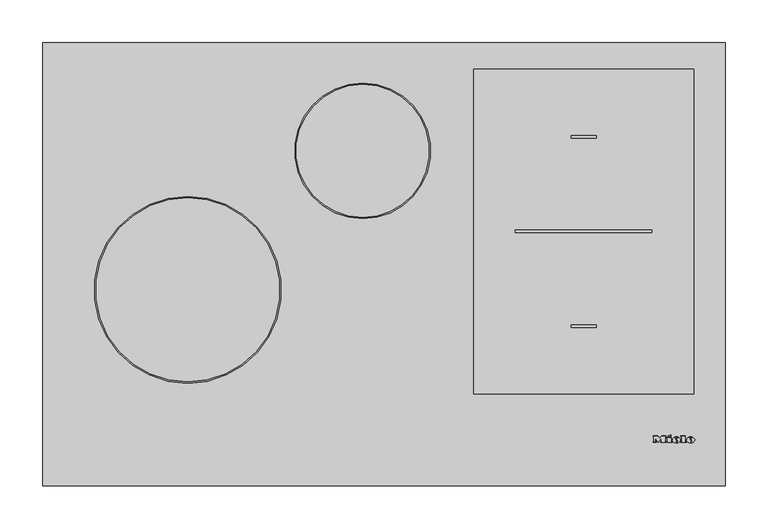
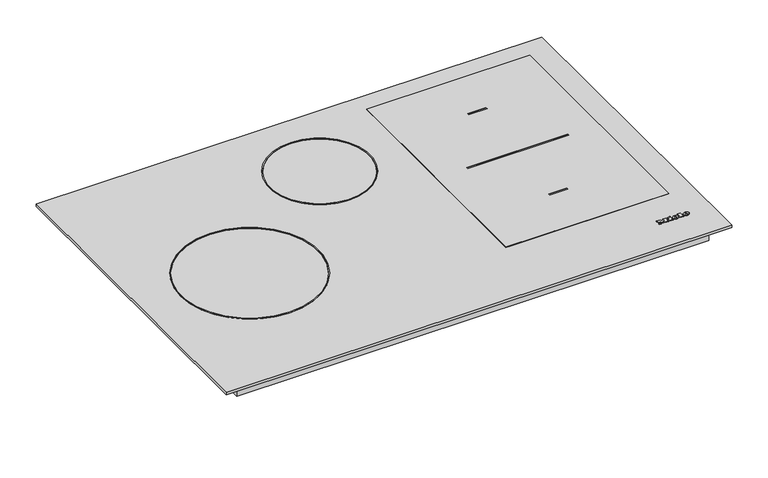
"""IFC4 building model written with IfcOpenShell, lengths in millimetres: proxy geometry, 11554200_AUS_KM7679FL : 26767970_AUS_11554200_KM7679FL."""

from ifc_helpers import new_model, si_unit, point, frame, frame_2d, origin, origin_with_axes, place, context, project, spatial, polyline, circle_curve, ellipse_curve, trimmed, segment, composite_curve, outline, extrude, source, transform, mapped, element, save
from ifc_brep_helpers import plane_surface, cylinder_surface, revolved_surface, extruded_surface, advanced_brep


def specialty_equipment_5556e589(model_context):
    return source(origin(), model_context, "Body", "SolidModel", [
        advanced_brep(
        [(358.648, 52.8948833, 4.9922537), (358.648, 53.7028828, 4.9931551), (364.0, 53.7028828, 4.9931551), (354.688, 53.7028828, 4.9931551), (356.888, 50.9988845, 4.9901386), (363.864, 52.8948833, 4.9922537), (361.448, 52.8948833, 4.9922537), (359.544, 51.9988838, 4.9912542), (358.648, 54.7268821, 4.9942974), (358.648, 55.5988816, 4.9952701), (360.016, 55.5988816, 4.9952701), (360.016, 54.7268821, 4.9942974), (358.648, 52.8959988, 3.9922543), (359.544, 51.9999994, 3.9912548), (361.448, 52.8959988, 3.9922543), (363.864, 52.8959988, 3.9922543), (356.888, 51.0, 3.9901393), (354.688, 53.7039983, 3.9931557), (364.0, 53.7039983, 3.9931557), (358.648, 53.7039983, 3.9931557), (358.648, 54.7279977, 3.994298), (360.016, 54.7279977, 3.994298), (360.016, 55.5999971, 3.9952707), (358.648, 55.5999971, 3.9952707)],
        [
            (0, 1),
            (1, 2),
            (2, 3, ellipse_curve(frame((359.344, 53.7028828, 4.9931551), z_axis=(0.0, -0.0011155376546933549, 0.9999993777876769), x_axis=(-1.0, 0.0, 0.0)), 4.656, 3.848)),
            (3, 4, circle_curve(frame((357.7840436, 53.9748826, 4.9934585), z_axis=(0.0, -0.0011155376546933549, 0.9999993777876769), x_axis=(0.0, -0.9999993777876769, -0.0011155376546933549)), 3.1079688)),
            (4, 5, circle_curve(frame((359.2507936, 56.0868813, 4.9958145), z_axis=(0.0, -0.0011155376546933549, 0.9999993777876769), x_axis=(0.0, -0.9999993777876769, -0.0011155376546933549)), 5.6098607)),
            (5, 6),
            (6, 7, circle_curve(frame((359.9350588, 53.6388828, 4.9930837), z_axis=(0.0, 0.0011155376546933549, -0.9999993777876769), x_axis=(0.0, -0.9999993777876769, -0.0011155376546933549)), 1.6859795)),
            (7, 0, circle_curve(frame((359.544, 52.8948833, 4.9922537), z_axis=(0.0, 0.0011155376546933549, -0.9999993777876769), x_axis=(0.0, -0.9999993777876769, -0.0011155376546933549)), 0.896)),
            (8, 9),
            (9, 10, circle_curve(frame((359.332, 55.5988816, 4.9952701), z_axis=(0.0, 0.0011155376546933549, -0.9999993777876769), x_axis=(0.0, -0.9999993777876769, -0.0011155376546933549)), 0.684)),
            (10, 11),
            (11, 8),
            (12, 13, circle_curve(frame((359.544, 52.8959988, 3.9922543), z_axis=(0.0, -0.0011155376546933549, 0.9999993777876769), x_axis=(0.0, -0.9999993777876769, -0.0011155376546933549)), 0.896)),
            (13, 14, circle_curve(frame((359.9350588, 53.6399984, 3.9930843), z_axis=(0.0, -0.0011155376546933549, 0.9999993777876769), x_axis=(0.0, -0.9999993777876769, -0.0011155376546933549)), 1.6859795)),
            (14, 15),
            (15, 16, circle_curve(frame((359.2507936, 56.0879968, 3.9958151), z_axis=(0.0, 0.0011155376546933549, -0.9999993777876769), x_axis=(0.0, -0.9999993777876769, -0.0011155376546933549)), 5.6098607)),
            (16, 17, circle_curve(frame((357.7840436, 53.9759981, 3.9934591), z_axis=(0.0, 0.0011155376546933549, -0.9999993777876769), x_axis=(0.0, -0.9999993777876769, -0.0011155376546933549)), 3.1079688)),
            (17, 18, ellipse_curve(frame((359.344, 53.7039983, 3.9931557), z_axis=(0.0, 0.0011155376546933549, -0.9999993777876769), x_axis=(-1.0, 0.0, 0.0)), 4.656, 3.848)),
            (18, 19),
            (19, 12),
            (20, 21),
            (21, 22),
            (22, 23, circle_curve(frame((359.332, 55.5999971, 3.9952707), z_axis=(0.0, -0.0011155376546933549, 0.9999993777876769), x_axis=(0.0, -0.9999993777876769, -0.0011155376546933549)), 0.684)),
            (23, 20),
            (0, 12),
            (19, 1),
            (18, 2),
            (5, 15),
            (14, 6),
            (17, 3),
            (13, 7),
            (16, 4),
            (8, 20),
            (23, 9),
            (22, 10),
            (21, 11),
        ],
        [
            plane_surface(frame((358.648, 53.7028828, 4.9931551), z_axis=(0.0, -0.0011155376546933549, 0.9999993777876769), x_axis=(0.0, 0.9999993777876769, 0.0011155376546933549))),
            plane_surface(frame((358.648, 53.7039983, 3.9931557), z_axis=(0.0, 0.0011155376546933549, -0.9999993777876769), x_axis=(0.0, -0.9999993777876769, -0.0011155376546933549))),
            plane_surface(frame((358.648, 52.8948833, 4.9922537), z_axis=(1.0000000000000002, 0.0, 0.0), x_axis=(0.0, 0.001115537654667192, -0.999999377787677))),
            plane_surface(frame((358.648, 53.7028828, 4.9931551), z_axis=(0.0, -0.999999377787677, -0.001115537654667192), x_axis=(0.0, 0.001115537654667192, -0.999999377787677))),
            plane_surface(frame((363.864, 52.8948833, 4.9922537), z_axis=(0.0, 0.999999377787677, 0.001115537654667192), x_axis=(0.0, 0.001115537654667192, -0.999999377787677))),
            extruded_surface(trimmed(ellipse_curve(frame((359.344, 53.7051139, 2.9931563), z_axis=(0.0, -0.0011155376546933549, 0.9999993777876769), x_axis=(-1.0, 0.0, 0.0)), 4.656, 3.848), [point((364.0, 53.7051139, 2.9931563))], [point((354.688, 53.7051139, 2.9931563))], True, "CARTESIAN"), (0.0, -0.001115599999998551, 0.9999994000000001), 1.00000002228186),
            revolved_surface(polyline([(359.9350588, 51.954019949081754, 3.991203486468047), (359.9350588, 51.95290441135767, 4.99120292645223)]), (359.9350588, 53.6399984, 3.9930843), (0.0, 0.0011155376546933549, -0.9999993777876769)),
            revolved_surface(polyline([(359.544, 51.99999935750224, 3.9912547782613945), (359.544, 51.99888381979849, 4.991254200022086)]), (359.544, 52.8959988, 3.9922543), (0.0, 0.0011155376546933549, -0.9999993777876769)),
            cylinder_surface(frame((357.7840436, 53.9759981, 3.9934591), z_axis=(0.0, -0.0011155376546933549, 0.9999993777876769), x_axis=(0.0, -0.9999993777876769, -0.0011155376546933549)), 3.1079688),
            cylinder_surface(frame((359.2507936, 56.0879968, 3.9958151), z_axis=(0.0, -0.0011155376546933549, 0.9999993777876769), x_axis=(0.0, -0.9999993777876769, -0.0011155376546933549)), 5.6098607),
            plane_surface(frame((358.648, 54.7268821, 4.9942974), z_axis=(1.0000000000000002, 0.0, 0.0), x_axis=(0.0, 0.001115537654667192, -0.999999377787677))),
            revolved_surface(polyline([(359.332, 54.915997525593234, 3.9945076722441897), (359.332, 54.91488198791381, 4.994507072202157)]), (359.332, 55.5999971, 3.9952707), (0.0, 0.0011155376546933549, -0.9999993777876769)),
            plane_surface(frame((360.016, 55.5988816, 4.9952701), z_axis=(-1.0000000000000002, 0.0, 0.0), x_axis=(0.0, 0.001115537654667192, -0.999999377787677))),
            plane_surface(frame((360.016, 54.7268821, 4.9942974), z_axis=(0.0, 0.999999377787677, 0.001115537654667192), x_axis=(0.0, 0.001115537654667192, -0.999999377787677))),
        ],
        [
            (0, [[1, 2, 3, 4, 5, 6, 7, 8], [9, 10, 11, 12]]),
            (1, [[13, 14, 15, 16, 17, 18, 19, 20], [21, 22, 23, 24]]),
            (2, [[-1, 25, -20, 26]]),
            (3, [[-2, -26, -19, 27]]),
            (4, [[-6, 28, -15, 29]]),
            (5, [[-3, -27, -18, 30]]),
            (6, [[-7, -29, -14, 31]]),
            (7, [[-8, -31, -13, -25]]),
            (8, [[-4, -30, -17, 32]]),
            (9, [[-5, -32, -16, -28]]),
            (10, [[-9, 33, -24, 34]]),
            (11, [[-10, -34, -23, 35]]),
            (12, [[-11, -35, -22, 36]]),
            (13, [[-12, -36, -21, -33]]),
        ],
    ),
        advanced_brep(
        [(341.952, 52.8948833, 4.9922537), (341.952, 53.7028828, 4.9931551), (347.304, 53.7028828, 4.9931551), (337.992, 53.7028828, 4.9931551), (340.192, 50.9988845, 4.9901386), (347.168, 52.8948833, 4.9922537), (344.752, 52.8948833, 4.9922537), (342.848, 51.9988838, 4.9912542), (341.952, 54.7268821, 4.9942974), (341.952, 55.5988816, 4.9952701), (343.32, 55.5988816, 4.9952701), (343.32, 54.7268821, 4.9942974), (341.952, 52.8959988, 3.9922543), (342.848, 51.9999994, 3.9912548), (344.752, 52.8959988, 3.9922543), (347.168, 52.8959988, 3.9922543), (340.192, 51.0, 3.9901393), (337.992, 53.7039983, 3.9931557), (347.304, 53.7039983, 3.9931557), (341.952, 53.7039983, 3.9931557), (341.952, 54.7279977, 3.994298), (343.32, 54.7279977, 3.994298), (343.32, 55.5999971, 3.9952707), (341.952, 55.5999971, 3.9952707)],
        [
            (0, 1),
            (1, 2),
            (2, 3, ellipse_curve(frame((342.648, 53.7028828, 4.9931551), z_axis=(0.0, -0.0011155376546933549, 0.9999993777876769), x_axis=(-1.0, 0.0, 0.0)), 4.656, 3.848)),
            (3, 4, circle_curve(frame((341.0880436, 53.9748826, 4.9934585), z_axis=(0.0, -0.0011155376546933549, 0.9999993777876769), x_axis=(0.0, -0.9999993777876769, -0.0011155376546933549)), 3.1079688)),
            (4, 5, circle_curve(frame((342.5547936, 56.0868813, 4.9958145), z_axis=(0.0, -0.0011155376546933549, 0.9999993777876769), x_axis=(0.0, -0.9999993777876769, -0.0011155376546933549)), 5.6098607)),
            (5, 6),
            (6, 7, circle_curve(frame((343.2390588, 53.6388828, 4.9930837), z_axis=(0.0, 0.0011155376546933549, -0.9999993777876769), x_axis=(0.0, -0.9999993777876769, -0.0011155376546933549)), 1.6859795)),
            (7, 0, circle_curve(frame((342.848, 52.8948833, 4.9922537), z_axis=(0.0, 0.0011155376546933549, -0.9999993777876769), x_axis=(0.0, -0.9999993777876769, -0.0011155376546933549)), 0.896)),
            (8, 9),
            (9, 10, circle_curve(frame((342.636, 55.5988816, 4.9952701), z_axis=(0.0, 0.0011155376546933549, -0.9999993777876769), x_axis=(0.0, -0.9999993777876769, -0.0011155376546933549)), 0.684)),
            (10, 11),
            (11, 8),
            (12, 13, circle_curve(frame((342.848, 52.8959988, 3.9922543), z_axis=(0.0, -0.0011155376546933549, 0.9999993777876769), x_axis=(0.0, -0.9999993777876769, -0.0011155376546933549)), 0.896)),
            (13, 14, circle_curve(frame((343.2390588, 53.6399984, 3.9930843), z_axis=(0.0, -0.0011155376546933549, 0.9999993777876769), x_axis=(0.0, -0.9999993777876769, -0.0011155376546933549)), 1.6859795)),
            (14, 15),
            (15, 16, circle_curve(frame((342.5547936, 56.0879968, 3.9958151), z_axis=(0.0, 0.0011155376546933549, -0.9999993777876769), x_axis=(0.0, -0.9999993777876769, -0.0011155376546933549)), 5.6098607)),
            (16, 17, circle_curve(frame((341.0880436, 53.9759981, 3.9934591), z_axis=(0.0, 0.0011155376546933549, -0.9999993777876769), x_axis=(0.0, -0.9999993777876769, -0.0011155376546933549)), 3.1079688)),
            (17, 18, ellipse_curve(frame((342.648, 53.7039983, 3.9931557), z_axis=(0.0, 0.0011155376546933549, -0.9999993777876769), x_axis=(-1.0, 0.0, 0.0)), 4.656, 3.848)),
            (18, 19),
            (19, 12),
            (20, 21),
            (21, 22),
            (22, 23, circle_curve(frame((342.636, 55.5999971, 3.9952707), z_axis=(0.0, -0.0011155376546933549, 0.9999993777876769), x_axis=(0.0, -0.9999993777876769, -0.0011155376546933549)), 0.684)),
            (23, 20),
            (0, 12),
            (19, 1),
            (18, 2),
            (5, 15),
            (14, 6),
            (17, 3),
            (13, 7),
            (16, 4),
            (8, 20),
            (23, 9),
            (22, 10),
            (21, 11),
        ],
        [
            plane_surface(frame((341.952, 53.7028828, 4.9931551), z_axis=(0.0, -0.0011155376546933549, 0.9999993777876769), x_axis=(0.0, 0.9999993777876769, 0.0011155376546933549))),
            plane_surface(frame((341.952, 53.7039983, 3.9931557), z_axis=(0.0, 0.0011155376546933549, -0.9999993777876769), x_axis=(0.0, -0.9999993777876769, -0.0011155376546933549))),
            plane_surface(frame((341.952, 52.8948833, 4.9922537), z_axis=(1.0000000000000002, 0.0, 0.0), x_axis=(0.0, 0.001115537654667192, -0.999999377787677))),
            plane_surface(frame((341.952, 53.7028828, 4.9931551), z_axis=(0.0, -0.999999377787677, -0.001115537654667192), x_axis=(0.0, 0.001115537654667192, -0.999999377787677))),
            plane_surface(frame((347.168, 52.8948833, 4.9922537), z_axis=(0.0, 0.999999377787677, 0.001115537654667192), x_axis=(0.0, 0.001115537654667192, -0.999999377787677))),
            extruded_surface(trimmed(ellipse_curve(frame((342.648, 53.7051139, 2.9931563), z_axis=(0.0, -0.0011155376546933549, 0.9999993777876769), x_axis=(-1.0, 0.0, 0.0)), 4.656, 3.848), [point((347.304, 53.7051139, 2.9931563))], [point((337.992, 53.7051139, 2.9931563))], True, "CARTESIAN"), (0.0, -0.001115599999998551, 0.9999994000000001), 1.00000002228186),
            revolved_surface(polyline([(343.2390588, 51.954019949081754, 3.991203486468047), (343.2390588, 51.95290441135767, 4.99120292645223)]), (343.2390588, 53.6399984, 3.9930843), (0.0, 0.0011155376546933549, -0.9999993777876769)),
            revolved_surface(polyline([(342.848, 51.99999935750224, 3.9912547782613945), (342.848, 51.99888381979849, 4.991254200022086)]), (342.848, 52.8959988, 3.9922543), (0.0, 0.0011155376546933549, -0.9999993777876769)),
            cylinder_surface(frame((341.0880436, 53.9759981, 3.9934591), z_axis=(0.0, -0.0011155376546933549, 0.9999993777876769), x_axis=(0.0, -0.9999993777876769, -0.0011155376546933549)), 3.1079688),
            cylinder_surface(frame((342.5547936, 56.0879968, 3.9958151), z_axis=(0.0, -0.0011155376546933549, 0.9999993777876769), x_axis=(0.0, -0.9999993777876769, -0.0011155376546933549)), 5.6098607),
            plane_surface(frame((341.952, 54.7268821, 4.9942974), z_axis=(1.0000000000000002, 0.0, 0.0), x_axis=(0.0, 0.001115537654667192, -0.999999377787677))),
            revolved_surface(polyline([(342.636, 54.915997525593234, 3.9945076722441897), (342.636, 54.91488198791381, 4.994507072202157)]), (342.636, 55.5999971, 3.9952707), (0.0, 0.0011155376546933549, -0.9999993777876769)),
            plane_surface(frame((343.32, 55.5988816, 4.9952701), z_axis=(-1.0000000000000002, 0.0, 0.0), x_axis=(0.0, 0.001115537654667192, -0.999999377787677))),
            plane_surface(frame((343.32, 54.7268821, 4.9942974), z_axis=(0.0, 0.999999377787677, 0.001115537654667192), x_axis=(0.0, 0.001115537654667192, -0.999999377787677))),
        ],
        [
            (0, [[1, 2, 3, 4, 5, 6, 7, 8], [9, 10, 11, 12]]),
            (1, [[13, 14, 15, 16, 17, 18, 19, 20], [21, 22, 23, 24]]),
            (2, [[-1, 25, -20, 26]]),
            (3, [[-2, -26, -19, 27]]),
            (4, [[-6, 28, -15, 29]]),
            (5, [[-3, -27, -18, 30]]),
            (6, [[-7, -29, -14, 31]]),
            (7, [[-8, -31, -13, -25]]),
            (8, [[-4, -30, -17, 32]]),
            (9, [[-5, -32, -16, -28]]),
            (10, [[-9, 33, -24, 34]]),
            (11, [[-10, -34, -23, 35]]),
            (12, [[-11, -35, -22, 36]]),
            (13, [[-12, -36, -21, -33]]),
        ],
    ),
        extrude(outline(polyline([(0.0, 0.0), (-0.0109086, -2.9993294), (-1.4390415, -2.9920868), (-1.4315307, 0.0), (0.0, 0.0)])), frame((333.208, 58.5279953, 3.998537), z_axis=(0.0, -0.001115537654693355, 0.999999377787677), x_axis=(-0.4247202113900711, 0.9053240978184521, 0.0010099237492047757)), (0.0, 0.0, 1.0), 1.0),
        extrude(outline(polyline([(-0.4933908, 2.4141097), (-2.7800844, -2.4601583), (-7.0459741, -0.4588767), (-7.4401145, -1.299018), (-8.6568709, -0.728194), (-5.9760369, 4.9862153), (-4.7592805, 4.4153913), (-5.1636142, 3.5535222), (-2.1941493, 2.1604399), (-1.7898157, 3.022309), (-0.4933908, 2.4141097)])), frame((333.208, 58.5279953, 3.998537), z_axis=(0.0, -0.001115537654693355, 0.999999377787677), x_axis=(-0.4247202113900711, 0.9053240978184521, 0.0010099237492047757)), (0.0, 0.0, 1.0), 1.0),
        extrude(outline(polyline([(0.0, 0.0), (0.0, -1.304), (-5.504, -1.304), (-5.504, 5.3519999), (-6.488, 5.3519999), (-6.488, 6.696), (0.0, 6.696), (0.0, 5.3519999), (-0.96, 5.3519999), (-0.96, 0.0), (0.0, 0.0)])), frame((347.752, 57.6959958, 3.9976089), z_axis=(0.0, -0.0011155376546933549, 0.9999993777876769), x_axis=(-1.0, 0.0, 0.0)), (0.0, 0.0, 1.0), 1.0),
        extrude(outline(polyline([(0.0, 0.0), (0.0, -1.304), (-5.576, -1.304), (-7.92, 1.696), (-10.256, -1.304), (-15.128, -1.304), (-15.128, 0.0), (-14.112, 0.0), (-14.112, 5.3519999), (-15.128, 5.3519999), (-15.128, 6.696), (-8.744, 6.696), (-8.744, 5.3519999), (-9.728, 5.3519999), (-9.728, 1.8807777), (-6.136, 6.696), (-2.56, 1.9488752), (-2.56, 5.3519999), (-3.52, 5.3519999), (-3.52, 6.696), (0.0, 6.696), (0.0, 5.3519999), (-0.968, 5.3519999), (-0.968, 0.0), (0.0, 0.0)])), frame((315.288, 57.6959958, 3.9976089), z_axis=(0.0, -0.0011155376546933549, 0.9999993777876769), x_axis=(-1.0, 0.0, 0.0)), (0.0, 0.0, 1.0), 1.0),
        extrude(outline(polyline([(182.3772603, 428.0), (175.0, 428.0), (175.0, 429.2557039), (181.1215564, 429.2557039), (181.1215564, 432.5519266), (175.470889, 432.5519266), (175.470889, 433.8076304), (181.1215564, 433.8076304), (181.1215564, 436.7899271), (175.156963, 436.7899271), (175.156963, 438.045631), (182.3772603, 438.045631), (182.3772603, 428.0)])), frame((0.0, 0.0, -78.0), z_axis=(0.0, 0.0, 1.0), x_axis=(1.0, 0.0, 0.0)), (0.0, 0.0, 1.0), 1.0),
        extrude(outline(polyline([(173.1164442, 428.0), (166.8379248, 428.0), (166.8379248, 429.2557039), (171.8607403, 429.2557039), (171.8607403, 438.045631), (173.1164442, 438.045631), (173.1164442, 428.0)])), frame((0.0, 0.0, -78.0), z_axis=(0.0, 0.0, 1.0), x_axis=(1.0, 0.0, 0.0)), (0.0, 0.0, 1.0), 1.0),
        extrude(outline(polyline([(400.0, 520.0), (400.0, 0.0), (-400.0, 0.0), (-400.0, 520.0), (400.0, 520.0)])), origin_with_axes(), (0.0, 0.0, 1.0), 4.0),
        extrude(outline(polyline([(373.5, 503.5), (373.5, 16.5), (-373.5, 16.5), (-373.5, 503.5), (373.5, 503.5)])), frame((0.0, 0.0, -22.0), z_axis=(0.0, 0.0, 1.0), x_axis=(1.0, 0.0, 0.0)), (0.0, 0.0, 1.0), 22.0),
        extrude(outline(composite_curve([segment(trimmed(circle_curve(frame_2d((-25.0, 393.0)), 79.5), [point((-25.0, 472.5))], [point((-25.0, 313.5))], False, "CARTESIAN"), True, "CONTINUOUS"), segment(trimmed(circle_curve(frame_2d((-25.0, 393.0)), 79.5), [point((-25.0, 313.5))], [point((-25.0, 472.5))], False, "CARTESIAN"), True, "CONTINUOUS")], self_intersect=False), holes=[composite_curve([segment(trimmed(circle_curve(frame_2d((-25.0, 393.0)), 78.0), [point((-25.0, 471.0))], [point((-25.0, 315.0))], True, "CARTESIAN"), True, "CONTINUOUS"), segment(trimmed(circle_curve(frame_2d((-25.0, 393.0)), 78.0), [point((-25.0, 315.0))], [point((-25.0, 471.0))], True, "CARTESIAN"), True, "CONTINUOUS")], self_intersect=False)]), frame((0.0, 0.0, 4.0), z_axis=(0.0, 0.0, 1.0), x_axis=(1.0, 0.0, 0.0)), (0.0, 0.0, 1.0), 1.0),
        extrude(outline(composite_curve([segment(trimmed(circle_curve(frame_2d((-230.0, 230.0)), 109.5), [point((-230.0, 339.5))], [point((-230.0, 120.5))], False, "CARTESIAN"), True, "CONTINUOUS"), segment(trimmed(circle_curve(frame_2d((-230.0, 230.0)), 109.5), [point((-230.0, 120.5))], [point((-230.0, 339.5))], False, "CARTESIAN"), True, "CONTINUOUS")], self_intersect=False), holes=[composite_curve([segment(trimmed(circle_curve(frame_2d((-230.0, 230.0)), 108.0), [point((-230.0, 338.0))], [point((-230.0, 122.0))], True, "CARTESIAN"), True, "CONTINUOUS"), segment(trimmed(circle_curve(frame_2d((-230.0, 230.0)), 108.0), [point((-230.0, 122.0))], [point((-230.0, 338.0))], True, "CARTESIAN"), True, "CONTINUOUS")], self_intersect=False)]), frame((0.0, 0.0, 4.0), z_axis=(0.0, 0.0, 1.0), x_axis=(1.0, 0.0, 0.0)), (0.0, 0.0, 1.0), 1.0),
        extrude(outline(polyline([(363.0, 489.0), (363.0, 108.0), (105.0, 108.0), (105.0, 489.0), (363.0, 489.0)]), holes=[polyline([(248.5, 411.0), (219.5, 411.0), (219.5, 408.0), (248.5, 408.0), (248.5, 411.0)]), polyline([(314.0, 297.0), (314.0, 300.0), (154.0, 300.0), (154.0, 297.0), (314.0, 297.0)]), polyline([(248.5, 189.0), (219.5, 189.0), (219.5, 186.0), (248.5, 186.0), (248.5, 189.0)])]), frame((0.0, 0.0, 4.0), z_axis=(0.0, 0.0, 1.0), x_axis=(1.0, 0.0, 0.0)), (0.0, 0.0, 1.0), 1.0),
        extrude(outline(composite_curve([segment(trimmed(circle_curve(frame_2d((175.0, 433.0)), 7.5), [point((175.0, 440.5))], [point((175.0, 425.5))], False, "CARTESIAN"), True, "CONTINUOUS"), segment(trimmed(circle_curve(frame_2d((175.0, 433.0)), 7.5), [point((175.0, 425.5))], [point((175.0, 440.5))], False, "CARTESIAN"), True, "CONTINUOUS")], self_intersect=False)), frame((0.0, 0.0, -77.0), z_axis=(0.0, 0.0, 1.0), x_axis=(1.0, 0.0, 0.0)), (0.0, 0.0, 1.0), 30.0),
        extrude(outline(polyline([(253.0, 467.0), (253.0, 96.0), (-253.0, 96.0), (-253.0, 467.0), (253.0, 467.0)])), frame((0.0, 0.0, -47.0), z_axis=(0.0, 0.0, 1.0), x_axis=(1.0, 0.0, 0.0)), (0.0, 0.0, 1.0), 25.0),
    ])


if __name__ == "__main__":
    model = new_model("IFC4")
    model_context = context("Model", 3, world=origin())
    ifc_project = project(units=[si_unit("LENGTHUNIT", "METRE", prefix="MILLI")], contexts=[model_context])
    site = spatial("IfcSite", under=ifc_project)
    building = spatial("IfcBuilding", under=site)
    placement = place(None, origin())
    specialty_equipment_shape = specialty_equipment_5556e589(model_context)
    element("IfcBuildingElementProxy", 1, Name="11554200_AUS_KM7679FL : 26767970_AUS_11554200_KM7679FL", ObjectType="11554200_AUS_KM7679FL : 26767970_AUS_11554200_KM7679FL", at=placement, inside=building, context=model_context, shape_type="MappedRepresentation", body=[
        mapped(specialty_equipment_shape, transform((0.0, 0.0, 0.0), x_axis=(1.0, 0.0, 0.0), y_axis=(0.0, 1.0, 0.0), z_axis=(0.0, 0.0, 1.0))),
    ])
    save(model, "model.ifc")
